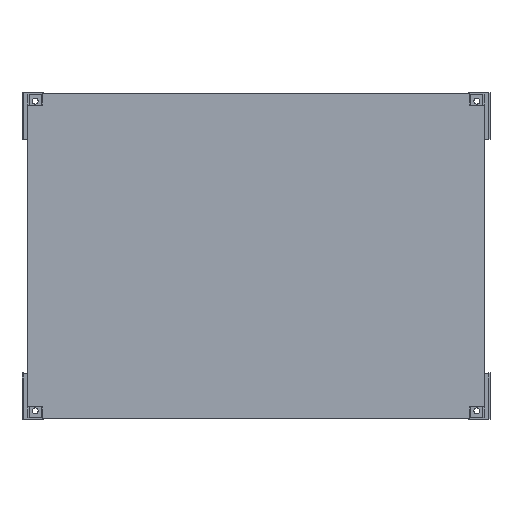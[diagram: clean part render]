
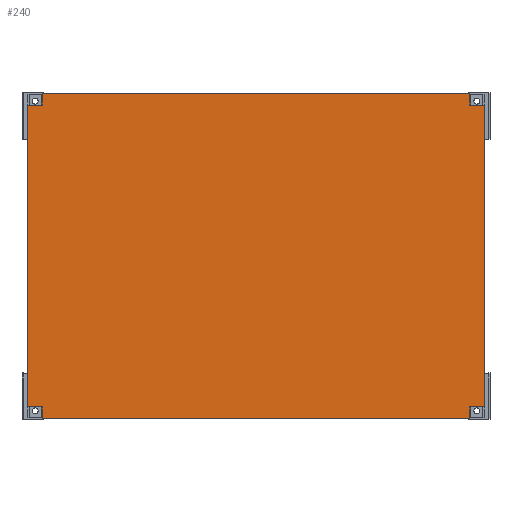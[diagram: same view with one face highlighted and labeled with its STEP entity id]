
A CAD part, top view. The second image highlights one B-rep face of the part: STEP entity #240.
In plain terms, the highlighted planar face has unit normal (0, 0, 1) as drawn and (0, 0, -1) by its records, which use the part's own axes.
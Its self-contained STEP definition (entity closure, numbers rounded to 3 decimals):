
#240 = ADVANCED_FACE( '', ( #488 ), #489, .F. );
#488 = FACE_OUTER_BOUND( '', #792, .T. );
#489 = PLANE( '', #793 );
#792 = EDGE_LOOP( '', ( #1253, #1254, #1255, #1256, #1257, #1258, #1259, #1260, #1261, #1262, #1263, #1264 ) );
#793 = AXIS2_PLACEMENT_3D( '', #1265, #1266, #1267 );
#1253 = ORIENTED_EDGE( '', *, *, #1916, .F. );
#1254 = ORIENTED_EDGE( '', *, *, #1917, .F. );
#1255 = ORIENTED_EDGE( '', *, *, #1881, .F. );
#1256 = ORIENTED_EDGE( '', *, *, #1890, .T. );
#1257 = ORIENTED_EDGE( '', *, *, #1918, .F. );
#1258 = ORIENTED_EDGE( '', *, *, #1878, .F. );
#1259 = ORIENTED_EDGE( '', *, *, #1919, .T. );
#1260 = ORIENTED_EDGE( '', *, *, #1920, .T. );
#1261 = ORIENTED_EDGE( '', *, *, #1921, .T. );
#1262 = ORIENTED_EDGE( '', *, *, #1768, .F. );
#1263 = ORIENTED_EDGE( '', *, *, #1775, .T. );
#1264 = ORIENTED_EDGE( '', *, *, #1922, .T. );
#1265 = CARTESIAN_POINT( '', ( 324., 0., 0. ) );
#1266 = DIRECTION( '', ( 0., 0., 1. ) );
#1267 = DIRECTION( '', ( 1., 0., 0. ) );
#1768 = EDGE_CURVE( '', #2077, #2079, #2080, .T. );
#1775 = EDGE_CURVE( '', #2077, #2090, #2092, .T. );
#1878 = EDGE_CURVE( '', #2265, #2267, #2268, .T. );
#1881 = EDGE_CURVE( '', #2271, #2272, #2273, .T. );
#1890 = EDGE_CURVE( '', #2271, #2285, #2287, .T. );
#1916 = EDGE_CURVE( '', #2325, #2326, #2327, .T. );
#1917 = EDGE_CURVE( '', #2272, #2325, #2328, .T. );
#1918 = EDGE_CURVE( '', #2267, #2285, #2329, .T. );
#1919 = EDGE_CURVE( '', #2265, #2330, #2331, .T. );
#1920 = EDGE_CURVE( '', #2330, #2332, #2333, .T. );
#1921 = EDGE_CURVE( '', #2332, #2079, #2334, .T. );
#1922 = EDGE_CURVE( '', #2090, #2326, #2335, .T. );
#2077 = VERTEX_POINT( '', #2540 );
#2079 = VERTEX_POINT( '', #2543 );
#2080 = LINE( '', #2544, #2545 );
#2090 = VERTEX_POINT( '', #2559 );
#2092 = LINE( '', #2562, #2563 );
#2265 = VERTEX_POINT( '', #2810 );
#2267 = VERTEX_POINT( '', #2813 );
#2268 = LINE( '', #2814, #2815 );
#2271 = VERTEX_POINT( '', #2819 );
#2272 = VERTEX_POINT( '', #2820 );
#2273 = LINE( '', #2821, #2822 );
#2285 = VERTEX_POINT( '', #2840 );
#2287 = LINE( '', #2843, #2844 );
#2325 = VERTEX_POINT( '', #2898 );
#2326 = VERTEX_POINT( '', #2899 );
#2327 = LINE( '', #2900, #2901 );
#2328 = LINE( '', #2902, #2903 );
#2329 = LINE( '', #2904, #2905 );
#2330 = VERTEX_POINT( '', #2906 );
#2331 = LINE( '', #2907, #2908 );
#2332 = VERTEX_POINT( '', #2909 );
#2333 = LINE( '', #2910, #2911 );
#2334 = LINE( '', #2912, #2913 );
#2335 = LINE( '', #2914, #2915 );
#2540 = CARTESIAN_POINT( '', ( 324., 0., 0. ) );
#2543 = CARTESIAN_POINT( '', ( 324., 18.08, 0. ) );
#2544 = CARTESIAN_POINT( '', ( 324., 0., 0. ) );
#2545 = VECTOR( '', #3205, 1000. );
#2559 = CARTESIAN_POINT( '', ( -324., 0., 0. ) );
#2562 = CARTESIAN_POINT( '', ( 324., 0., 0. ) );
#2563 = VECTOR( '', #3211, 1000. );
#2810 = CARTESIAN_POINT( '', ( 324., 475.92, 0. ) );
#2813 = CARTESIAN_POINT( '', ( 324., 494., 0. ) );
#2814 = CARTESIAN_POINT( '', ( 324., 0., 0. ) );
#2815 = VECTOR( '', #3305, 1000. );
#2819 = CARTESIAN_POINT( '', ( -324., 475.92, 0. ) );
#2820 = CARTESIAN_POINT( '', ( -347., 475.92, 0. ) );
#2821 = CARTESIAN_POINT( '', ( 324., 475.92, 0. ) );
#2822 = VECTOR( '', #3307, 1000. );
#2840 = CARTESIAN_POINT( '', ( -324., 494., 0. ) );
#2843 = CARTESIAN_POINT( '', ( -324., 0., 0. ) );
#2844 = VECTOR( '', #3315, 1000. );
#2898 = CARTESIAN_POINT( '', ( -347., 18.08, 0. ) );
#2899 = CARTESIAN_POINT( '', ( -324., 18.08, 0. ) );
#2900 = CARTESIAN_POINT( '', ( 324., 18.08, 0. ) );
#2901 = VECTOR( '', #3338, 1000. );
#2902 = CARTESIAN_POINT( '', ( -347., 492., 0. ) );
#2903 = VECTOR( '', #3339, 1000. );
#2904 = CARTESIAN_POINT( '', ( 324., 494., 0. ) );
#2905 = VECTOR( '', #3340, 1000. );
#2906 = CARTESIAN_POINT( '', ( 347., 475.92, 0. ) );
#2907 = CARTESIAN_POINT( '', ( 324., 475.92, 0. ) );
#2908 = VECTOR( '', #3341, 1000. );
#2909 = CARTESIAN_POINT( '', ( 347., 18.08, 0. ) );
#2910 = CARTESIAN_POINT( '', ( 347., 492., 0. ) );
#2911 = VECTOR( '', #3342, 1000. );
#2912 = CARTESIAN_POINT( '', ( 324., 18.08, 0. ) );
#2913 = VECTOR( '', #3343, 1000. );
#2914 = CARTESIAN_POINT( '', ( -324., 0., 0. ) );
#2915 = VECTOR( '', #3344, 1000. );
#3205 = DIRECTION( '', ( 0., 1., 0. ) );
#3211 = DIRECTION( '', ( -1., 0., 0. ) );
#3305 = DIRECTION( '', ( 0., 1., 0. ) );
#3307 = DIRECTION( '', ( -1., 0., 0. ) );
#3315 = DIRECTION( '', ( 0., 1., 0. ) );
#3338 = DIRECTION( '', ( 1., 0., 0. ) );
#3339 = DIRECTION( '', ( 0., -1., 0. ) );
#3340 = DIRECTION( '', ( -1., 0., 0. ) );
#3341 = DIRECTION( '', ( 1., 0., 0. ) );
#3342 = DIRECTION( '', ( 0., -1., 0. ) );
#3343 = DIRECTION( '', ( -1., 0., 0. ) );
#3344 = DIRECTION( '', ( 0., 1., 0. ) );
